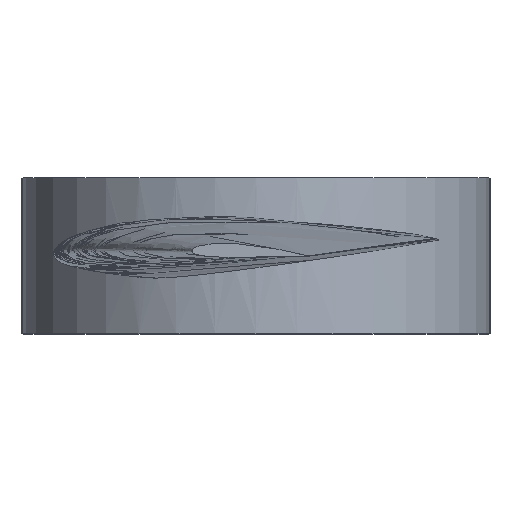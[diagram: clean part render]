
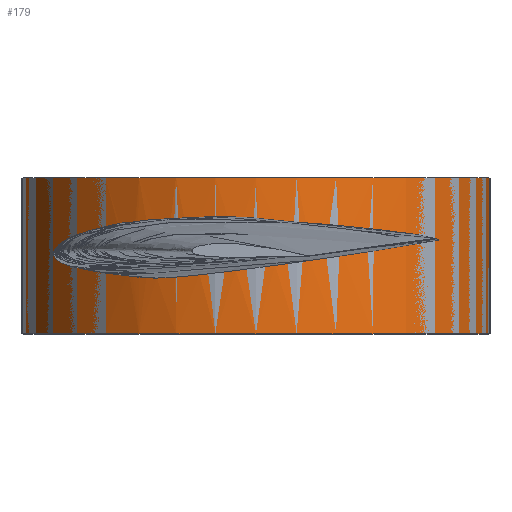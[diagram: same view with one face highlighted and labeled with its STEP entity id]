
A CAD part, top view. The second image highlights one B-rep face of the part: STEP entity #179.
In plain terms, the highlighted cylindrical face has radius 30 mm (diameter 60 mm), a full revolution.
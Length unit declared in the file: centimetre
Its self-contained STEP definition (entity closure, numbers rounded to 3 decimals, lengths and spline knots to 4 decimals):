
#29=FACE_BOUND('',#56,.T.);
#35=B_SPLINE_CURVE_WITH_KNOTS('',3,(#278,#279,#280,#281,#282,#283,#284,
#285,#286,#287,#288,#289,#290,#291,#292,#293,#294,#295,#296,#297,#298,#299,
#300,#301,#302,#303,#304,#305,#306,#307,#308,#309,#310,#311,#312,#313,#314,
#315,#316,#317,#318,#319,#320,#321,#322,#323,#324,#325,#326,#327,#328,#329,
#330,#331,#332,#333,#334,#335,#336,#337,#338,#339,#340,#341),
 .UNSPECIFIED.,.F.,.F.,(4,3,3,3,3,3,3,3,3,3,3,3,3,3,3,3,3,3,3,3,3,4),(-4.5719,
-4.4953,-4.4569,-4.3904,-4.3652,
-4.342,-4.2987,-4.2712,-4.2335,
-4.1976,-4.1055,-4.015,-3.9058,
-3.8104,-3.7283,-3.5487,-3.3506,
-2.7946,-2.4673,-1.807,-1.4162,
0.),.UNSPECIFIED.);
#41=FACE_OUTER_BOUND('',#55,.T.);
#55=EDGE_LOOP('',(#131,#132,#133,#134));
#56=EDGE_LOOP('',(#135));
#75=LINE('',#275,#81);
#81=VECTOR('',#232,3.);
#87=CIRCLE('',#209,3.);
#88=CIRCLE('',#210,3.);
#95=VERTEX_POINT('',#272);
#96=VERTEX_POINT('',#274);
#97=VERTEX_POINT('',#277);
#109=EDGE_CURVE('',#95,#95,#87,.T.);
#110=EDGE_CURVE('',#95,#96,#75,.T.);
#111=EDGE_CURVE('',#96,#96,#88,.T.);
#112=EDGE_CURVE('',#97,#97,#35,.T.);
#131=ORIENTED_EDGE('',*,*,#109,.F.);
#132=ORIENTED_EDGE('',*,*,#110,.T.);
#133=ORIENTED_EDGE('',*,*,#111,.F.);
#134=ORIENTED_EDGE('',*,*,#110,.F.);
#135=ORIENTED_EDGE('',*,*,#112,.F.);
#175=CYLINDRICAL_SURFACE('',#208,3.);
#179=ADVANCED_FACE('',(#41,#29),#175,.T.);
#208=AXIS2_PLACEMENT_3D('',#271,#228,#229);
#209=AXIS2_PLACEMENT_3D('',#273,#230,#231);
#210=AXIS2_PLACEMENT_3D('',#276,#233,#234);
#228=DIRECTION('center_axis',(0.,1.,0.));
#229=DIRECTION('ref_axis',(1.,0.,0.));
#230=DIRECTION('center_axis',(0.,1.,0.));
#231=DIRECTION('ref_axis',(1.,0.,0.));
#232=DIRECTION('',(0.,-1.,0.));
#233=DIRECTION('center_axis',(0.,-1.,0.));
#234=DIRECTION('ref_axis',(1.,0.,0.));
#271=CARTESIAN_POINT('Origin',(0.5759,0.,0.));
#272=CARTESIAN_POINT('',(-2.4241,1.,0.));
#273=CARTESIAN_POINT('Origin',(0.5759,1.,0.));
#274=CARTESIAN_POINT('',(-2.4241,-1.,0.));
#275=CARTESIAN_POINT('',(-2.4241,0.,0.));
#276=CARTESIAN_POINT('Origin',(0.5759,-1.,0.));
#277=CARTESIAN_POINT('',(2.0933,0.0615,2.5879));
#278=CARTESIAN_POINT('Ctrl Pts',(2.0927,0.0698,2.5883));
#279=CARTESIAN_POINT('Ctrl Pts',(1.8159,0.1094,2.7505));
#280=CARTESIAN_POINT('Ctrl Pts',(1.5088,0.142,2.8697));
#281=CARTESIAN_POINT('Ctrl Pts',(1.1911,0.1613,2.9362));
#282=CARTESIAN_POINT('Ctrl Pts',(1.0321,0.171,2.9696));
#283=CARTESIAN_POINT('Ctrl Pts',(0.8681,0.1779,2.99));
#284=CARTESIAN_POINT('Ctrl Pts',(0.7079,0.18,2.9971));
#285=CARTESIAN_POINT('Ctrl Pts',(0.4302,0.1837,3.0093));
#286=CARTESIAN_POINT('Ctrl Pts',(0.18,0.1761,2.9814));
#287=CARTESIAN_POINT('Ctrl Pts',(-0.0284,0.1584,
2.9385));
#288=CARTESIAN_POINT('Ctrl Pts',(-0.1075,0.1517,2.9223));
#289=CARTESIAN_POINT('Ctrl Pts',(-0.1806,0.1441,2.9039));
#290=CARTESIAN_POINT('Ctrl Pts',(-0.2469,0.1348,2.885));
#291=CARTESIAN_POINT('Ctrl Pts',(-0.3079,0.1263,2.8676));
#292=CARTESIAN_POINT('Ctrl Pts',(-0.3707,0.1154,2.8475));
#293=CARTESIAN_POINT('Ctrl Pts',(-0.4309,0.104,2.826));
#294=CARTESIAN_POINT('Ctrl Pts',(-0.5435,0.0825,
2.7859));
#295=CARTESIAN_POINT('Ctrl Pts',(-0.634,0.0583,
2.7462));
#296=CARTESIAN_POINT('Ctrl Pts',(-0.6981,0.0385,2.7161));
#297=CARTESIAN_POINT('Ctrl Pts',(-0.7389,0.0259,2.6969));
#298=CARTESIAN_POINT('Ctrl Pts',(-0.7679,0.0156,
2.6823));
#299=CARTESIAN_POINT('Ctrl Pts',(-0.7906,0.007,
2.6707));
#300=CARTESIAN_POINT('Ctrl Pts',(-0.8217,-0.0048,
2.6548));
#301=CARTESIAN_POINT('Ctrl Pts',(-0.8522,-0.0177,
2.6384));
#302=CARTESIAN_POINT('Ctrl Pts',(-0.8721,-0.0265,
2.6275));
#303=CARTESIAN_POINT('Ctrl Pts',(-0.8909,-0.0348,2.6171));
#304=CARTESIAN_POINT('Ctrl Pts',(-0.9035,-0.0411,
2.6099));
#305=CARTESIAN_POINT('Ctrl Pts',(-0.9164,-0.048,
2.6025));
#306=CARTESIAN_POINT('Ctrl Pts',(-0.9495,-0.0658,
2.5835));
#307=CARTESIAN_POINT('Ctrl Pts',(-0.9721,-0.081,
2.5699));
#308=CARTESIAN_POINT('Ctrl Pts',(-0.9863,-0.0906,
2.5611));
#309=CARTESIAN_POINT('Ctrl Pts',(-1.0004,-0.1001,2.5526));
#310=CARTESIAN_POINT('Ctrl Pts',(-1.0129,-0.1091,2.5448));
#311=CARTESIAN_POINT('Ctrl Pts',(-1.0262,-0.124,2.5364));
#312=CARTESIAN_POINT('Ctrl Pts',(-1.0423,-0.1419,2.5262));
#313=CARTESIAN_POINT('Ctrl Pts',(-1.0618,-0.1681,2.5136));
#314=CARTESIAN_POINT('Ctrl Pts',(-1.0593,-0.1958,2.5152));
#315=CARTESIAN_POINT('Ctrl Pts',(-1.0571,-0.2201,2.5166));
#316=CARTESIAN_POINT('Ctrl Pts',(-1.0362,-0.2363,2.5301));
#317=CARTESIAN_POINT('Ctrl Pts',(-1.0177,-0.2467,2.5418));
#318=CARTESIAN_POINT('Ctrl Pts',(-1.0017,-0.2556,2.5518));
#319=CARTESIAN_POINT('Ctrl Pts',(-0.9888,-0.26,
2.5597));
#320=CARTESIAN_POINT('Ctrl Pts',(-0.97,-0.2649,
2.571));
#321=CARTESIAN_POINT('Ctrl Pts',(-0.9289,-0.2757,2.5958));
#322=CARTESIAN_POINT('Ctrl Pts',(-0.8873,-0.2821,
2.6195));
#323=CARTESIAN_POINT('Ctrl Pts',(-0.8424,-0.2847,2.6436));
#324=CARTESIAN_POINT('Ctrl Pts',(-0.793,-0.2875,
2.6701));
#325=CARTESIAN_POINT('Ctrl Pts',(-0.753,-0.2879,2.6901));
#326=CARTESIAN_POINT('Ctrl Pts',(-0.7103,-0.2876,
2.7103));
#327=CARTESIAN_POINT('Ctrl Pts',(-0.5907,-0.2867,
2.7671));
#328=CARTESIAN_POINT('Ctrl Pts',(-0.4751,-0.2784,
2.8123));
#329=CARTESIAN_POINT('Ctrl Pts',(-0.364,-0.2685,
2.849));
#330=CARTESIAN_POINT('Ctrl Pts',(-0.2986,-0.2627,
2.8706));
#331=CARTESIAN_POINT('Ctrl Pts',(-0.2362,-0.2566,
2.889));
#332=CARTESIAN_POINT('Ctrl Pts',(-0.1622,-0.2485,
2.9078));
#333=CARTESIAN_POINT('Ctrl Pts',(-0.0128,-0.2321,
2.9457));
#334=CARTESIAN_POINT('Ctrl Pts',(0.171,-0.2115,2.9801));
#335=CARTESIAN_POINT('Ctrl Pts',(0.3827,-0.1842,2.9938));
#336=CARTESIAN_POINT('Ctrl Pts',(0.508,-0.168,3.0019));
#337=CARTESIAN_POINT('Ctrl Pts',(0.6393,-0.1499,3.0021));
#338=CARTESIAN_POINT('Ctrl Pts',(0.7678,-0.132,2.9939));
#339=CARTESIAN_POINT('Ctrl Pts',(1.2336,-0.0669,2.964));
#340=CARTESIAN_POINT('Ctrl Pts',(1.6897,-0.0013,
2.8246));
#341=CARTESIAN_POINT('Ctrl Pts',(2.0933,0.0615,2.5879));
